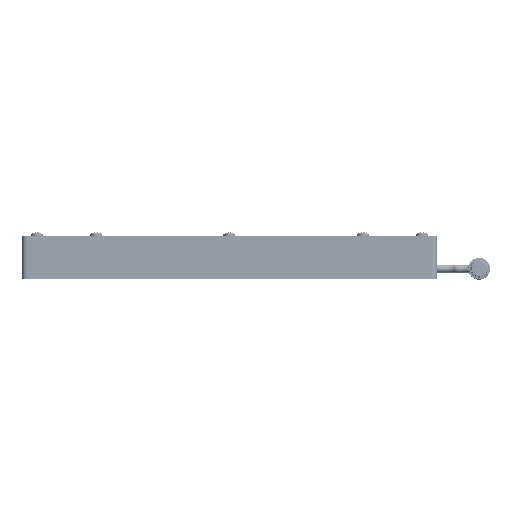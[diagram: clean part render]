
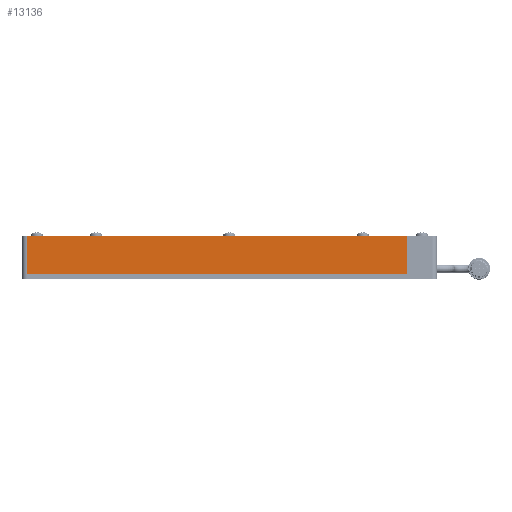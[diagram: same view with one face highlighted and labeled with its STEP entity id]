
A CAD part, left-side view. The second image highlights one B-rep face of the part: STEP entity #13136.
In plain terms, the highlighted planar face has unit normal (-1, 0, 0) as drawn and (0, 0, -1) by its records, which use the part's own axes.
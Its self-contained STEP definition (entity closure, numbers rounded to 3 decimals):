
#414 = VECTOR ( 'NONE', #11694, 1000. ) ;
#551 = PLANE ( 'NONE',  #5653 ) ;
#2451 = CARTESIAN_POINT ( 'NONE',  ( -140., -12.7, -10. ) ) ;
#2814 = EDGE_CURVE ( 'NONE', #12683, #15474, #4702, .T. ) ;
#3037 = LINE ( 'NONE', #7953, #10133 ) ;
#3639 = VERTEX_POINT ( 'NONE', #12503 ) ;
#4702 = LINE ( 'NONE', #9545, #6079 ) ;
#4994 = ORIENTED_EDGE ( 'NONE', *, *, #7238, .T. ) ;
#5373 = DIRECTION ( 'NONE',  ( 0., 0., 1. ) ) ;
#5653 = AXIS2_PLACEMENT_3D ( 'NONE', #6328, #5373, #14717 ) ;
#5682 = CARTESIAN_POINT ( 'NONE',  ( -140., 12.7, -10. ) ) ;
#6079 = VECTOR ( 'NONE', #14430, 1000. ) ;
#6246 = FACE_OUTER_BOUND ( 'NONE', #8977, .T. ) ;
#6328 = CARTESIAN_POINT ( 'NONE',  ( -140., 12.7, -10. ) ) ;
#6679 = DIRECTION ( 'NONE',  ( 0., -1., 0. ) ) ;
#6727 = VERTEX_POINT ( 'NONE', #12804 ) ;
#7238 = EDGE_CURVE ( 'NONE', #6727, #3639, #3037, .T. ) ;
#7296 = DIRECTION ( 'NONE',  ( -1., 0., 0. ) ) ;
#7771 = VECTOR ( 'NONE', #7296, 1000. ) ;
#7953 = CARTESIAN_POINT ( 'NONE',  ( 136.825, 12.7, -10. ) ) ;
#8513 = ORIENTED_EDGE ( 'NONE', *, *, #9787, .T. ) ;
#8977 = EDGE_LOOP ( 'NONE', ( #13298, #4994, #8513, #13320 ) ) ;
#9545 = CARTESIAN_POINT ( 'NONE',  ( -120., 396.775, -10. ) ) ;
#9787 = EDGE_CURVE ( 'NONE', #3639, #15474, #13370, .T. ) ;
#10040 = EDGE_CURVE ( 'NONE', #6727, #12683, #13202, .T. ) ;
#10133 = VECTOR ( 'NONE', #6679, 1000. ) ;
#11694 = DIRECTION ( 'NONE',  ( -1., 0., 0. ) ) ;
#11884 = CARTESIAN_POINT ( 'NONE',  ( -120., -12.7, -10. ) ) ;
#12503 = CARTESIAN_POINT ( 'NONE',  ( 136.825, -12.7, -10. ) ) ;
#12683 = VERTEX_POINT ( 'NONE', #14183 ) ;
#12804 = CARTESIAN_POINT ( 'NONE',  ( 136.825, 12.7, -10. ) ) ;
#13136 = ADVANCED_FACE ( 'NONE', ( #6246 ), #551, .F. ) ;
#13202 = LINE ( 'NONE', #5682, #414 ) ;
#13298 = ORIENTED_EDGE ( 'NONE', *, *, #10040, .F. ) ;
#13320 = ORIENTED_EDGE ( 'NONE', *, *, #2814, .F. ) ;
#13370 = LINE ( 'NONE', #2451, #7771 ) ;
#14183 = CARTESIAN_POINT ( 'NONE',  ( -120., 12.7, -10. ) ) ;
#14430 = DIRECTION ( 'NONE',  ( 0., -1., 0. ) ) ;
#14717 = DIRECTION ( 'NONE',  ( 1., 0., 0. ) ) ;
#15474 = VERTEX_POINT ( 'NONE', #11884 ) ;
